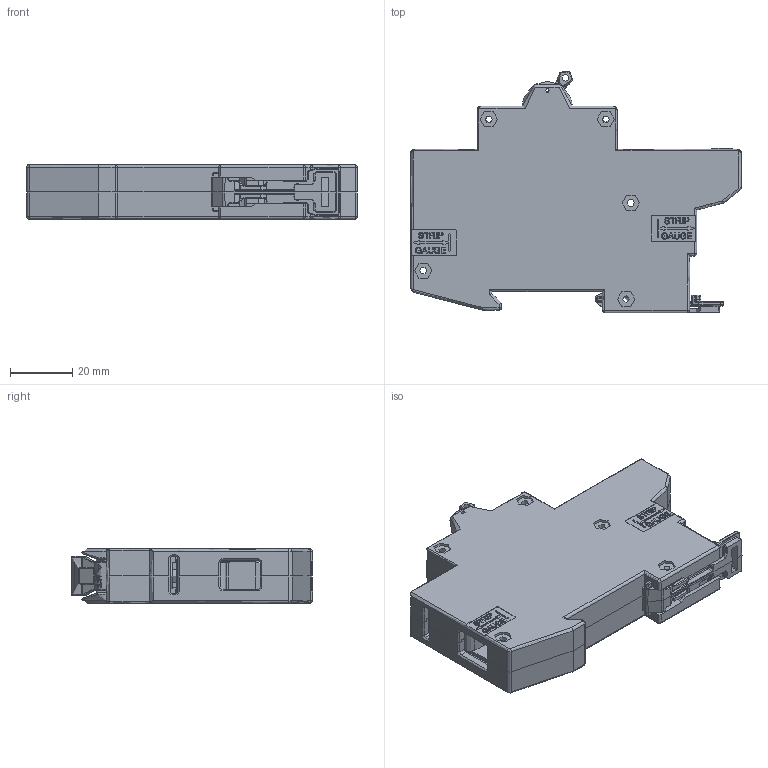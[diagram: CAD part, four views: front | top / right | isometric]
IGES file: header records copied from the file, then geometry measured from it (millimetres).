
Global section: file name: GR_1p_with aux; native system: Autodesk Inventor 2014; preprocessor: unknown; author: nbinnendijk; date: 20170404.112435; units: inch
Bounding box: 106.38 x 77.77 x 17.48 mm (x, y, z)
Surface area: 43125 mm2 (no closed solid volume)
Topology: 0 solids, 0 shells, 2139 faces, 16370 edges, 16349 vertices
Faces by surface type: plane 1301, revolution 730, bspline 108
